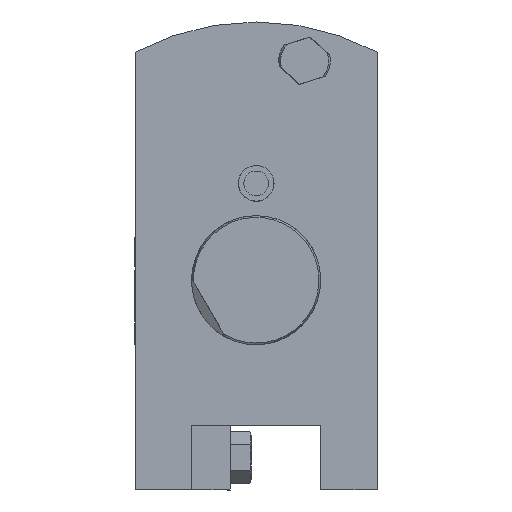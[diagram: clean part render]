
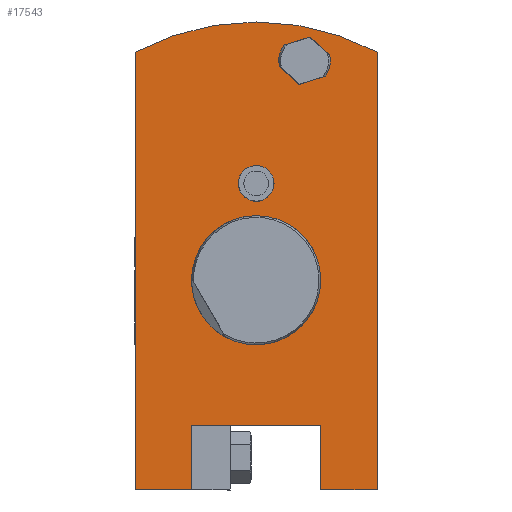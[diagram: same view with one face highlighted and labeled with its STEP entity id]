
A CAD part, left-side view. The second image highlights one B-rep face of the part: STEP entity #17543.
In plain terms, the highlighted planar face has unit normal (-1, 0, 0).
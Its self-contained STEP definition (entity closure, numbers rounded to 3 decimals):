
#7969=CIRCLE('',#16999,80.);
#7970=CIRCLE('',#17000,5.55);
#7971=CIRCLE('',#17001,20.);
#7972=CIRCLE('',#17002,8.);
#7973=CIRCLE('',#17003,8.);
#8178=ORIENTED_EDGE('',*,*,#10740,.F.);
#8179=ORIENTED_EDGE('',*,*,#10741,.F.);
#8180=ORIENTED_EDGE('',*,*,#10742,.F.);
#8181=ORIENTED_EDGE('',*,*,#10627,.F.);
#8182=ORIENTED_EDGE('',*,*,#10604,.F.);
#8183=ORIENTED_EDGE('',*,*,#10743,.F.);
#8184=ORIENTED_EDGE('',*,*,#10616,.F.);
#8185=ORIENTED_EDGE('',*,*,#10744,.F.);
#8186=ORIENTED_EDGE('',*,*,#10745,.F.);
#8187=ORIENTED_EDGE('',*,*,#10746,.T.);
#8188=ORIENTED_EDGE('',*,*,#10747,.F.);
#8189=ORIENTED_EDGE('',*,*,#10748,.F.);
#8190=ORIENTED_EDGE('',*,*,#10749,.F.);
#8191=ORIENTED_EDGE('',*,*,#10750,.F.);
#8192=ORIENTED_EDGE('',*,*,#10751,.F.);
#8193=ORIENTED_EDGE('',*,*,#10752,.F.);
#9382=VECTOR('',#11970,1.);
#9392=VECTOR('',#11988,1.);
#9401=VECTOR('',#12007,1.);
#9477=VECTOR('',#12085,1.);
#9478=VECTOR('',#12086,1.);
#9479=VECTOR('',#12089,1.);
#9480=VECTOR('',#12090,1.);
#9481=VECTOR('',#12095,1.);
#9482=VECTOR('',#12096,1.);
#9483=VECTOR('',#12099,1.);
#9484=VECTOR('',#12100,1.);
#9763=LINE('',#13061,#9382);
#9773=LINE('',#13085,#9392);
#9782=LINE('',#13106,#9401);
#9858=LINE('',#13561,#9477);
#9859=LINE('',#13563,#9478);
#9860=LINE('',#13565,#9479);
#9861=LINE('',#13566,#9480);
#9862=LINE('',#13573,#9481);
#9863=LINE('',#13575,#9482);
#9864=LINE('',#13579,#9483);
#9865=LINE('',#13581,#9484);
#10143=VERTEX_POINT('',#13058);
#10144=VERTEX_POINT('',#13060);
#10153=VERTEX_POINT('',#13082);
#10154=VERTEX_POINT('',#13084);
#10161=VERTEX_POINT('',#13105);
#10273=VERTEX_POINT('',#13559);
#10274=VERTEX_POINT('',#13560);
#10275=VERTEX_POINT('',#13562);
#10276=VERTEX_POINT('',#13567);
#10277=VERTEX_POINT('',#13569);
#10278=VERTEX_POINT('',#13571);
#10279=VERTEX_POINT('',#13572);
#10280=VERTEX_POINT('',#13574);
#10281=VERTEX_POINT('',#13576);
#10282=VERTEX_POINT('',#13578);
#10283=VERTEX_POINT('',#13580);
#10604=EDGE_CURVE('',#10143,#10144,#9763,.T.);
#10616=EDGE_CURVE('',#10153,#10154,#9773,.T.);
#10627=EDGE_CURVE('',#10144,#10161,#9782,.T.);
#10740=EDGE_CURVE('',#10273,#10274,#9858,.T.);
#10741=EDGE_CURVE('',#10275,#10273,#9859,.T.);
#10742=EDGE_CURVE('',#10161,#10275,#7969,.T.);
#10743=EDGE_CURVE('',#10154,#10143,#9860,.T.);
#10744=EDGE_CURVE('',#10274,#10153,#9861,.T.);
#10745=EDGE_CURVE('',#10276,#10276,#7970,.T.);
#10746=EDGE_CURVE('',#10277,#10277,#7971,.T.);
#10747=EDGE_CURVE('',#10278,#10279,#9862,.T.);
#10748=EDGE_CURVE('',#10280,#10278,#9863,.T.);
#10749=EDGE_CURVE('',#10281,#10280,#7972,.T.);
#10750=EDGE_CURVE('',#10282,#10281,#9864,.T.);
#10751=EDGE_CURVE('',#10283,#10282,#9865,.T.);
#10752=EDGE_CURVE('',#10279,#10283,#7973,.T.);
#11299=EDGE_LOOP('',(#8178,#8179,#8180,#8181,#8182,#8183,#8184,#8185));
#11300=EDGE_LOOP('',(#8186));
#11301=EDGE_LOOP('',(#8187));
#11302=EDGE_LOOP('',(#8188,#8189,#8190,#8191,#8192,#8193));
#11641=FACE_BOUND('',#11299,.T.);
#11642=FACE_BOUND('',#11300,.T.);
#11643=FACE_BOUND('',#11301,.T.);
#11644=FACE_BOUND('',#11302,.T.);
#11970=DIRECTION('',(0.,17.5,0.));
#11988=DIRECTION('',(0.,40.,0.));
#12007=DIRECTION('',(0.,0.,135.666));
#12083=DIRECTION('',(-1.,0.,0.));
#12084=DIRECTION('',(0.,1.,0.));
#12085=DIRECTION('',(0.,17.5,0.));
#12086=DIRECTION('',(0.,0.,-135.666));
#12087=DIRECTION('',(1.,0.,0.));
#12088=DIRECTION('',(0.,-7.59,79.639));
#12089=DIRECTION('',(0.,0.,-20.));
#12090=DIRECTION('',(0.,0.,20.));
#12091=DIRECTION('',(-1.,0.,0.));
#12092=DIRECTION('',(0.,0.,-5.55));
#12093=DIRECTION('',(1.,0.,0.));
#12094=DIRECTION('',(0.,-20.,0.));
#12095=DIRECTION('',(0.,8.027,-2.531));
#12096=DIRECTION('',(0.,6.205,5.686));
#12097=DIRECTION('',(-1.,0.,0.));
#12098=DIRECTION('',(0.,-6.402,-4.797));
#12099=DIRECTION('',(0.,-8.027,2.531));
#12100=DIRECTION('',(0.,-6.205,-5.686));
#12101=DIRECTION('',(-1.,0.,0.));
#12102=DIRECTION('',(0.,6.402,4.797));
#13058=CARTESIAN_POINT('',(0.,20.,-65.));
#13060=CARTESIAN_POINT('',(0.,37.5,-65.));
#13061=CARTESIAN_POINT('',(0.,20.,-65.));
#13082=CARTESIAN_POINT('',(0.,-20.,-45.));
#13084=CARTESIAN_POINT('',(0.,20.,-45.));
#13085=CARTESIAN_POINT('',(0.,-20.,-45.));
#13105=CARTESIAN_POINT('',(0.,37.5,70.666));
#13106=CARTESIAN_POINT('',(0.,37.5,-65.));
#13558=CARTESIAN_POINT('',(0.,0.,45.));
#13559=CARTESIAN_POINT('',(0.,-37.5,-65.));
#13560=CARTESIAN_POINT('',(0.,-20.,-65.));
#13561=CARTESIAN_POINT('',(0.,-37.5,-65.));
#13562=CARTESIAN_POINT('',(0.,-37.5,70.666));
#13563=CARTESIAN_POINT('',(0.,-37.5,70.666));
#13564=CARTESIAN_POINT('',(0.,0.,
0.));
#13565=CARTESIAN_POINT('',(0.,20.,-45.));
#13566=CARTESIAN_POINT('',(0.,-20.,-65.));
#13567=CARTESIAN_POINT('',(0.,0.,24.45));
#13568=CARTESIAN_POINT('',(0.,0.,30.));
#13569=CARTESIAN_POINT('',(0.,0.,20.));
#13570=CARTESIAN_POINT('',(0.,0.,0.));
#13571=CARTESIAN_POINT('',(0.,-16.624,75.328));
#13572=CARTESIAN_POINT('',(0.,-8.598,72.797));
#13573=CARTESIAN_POINT('',(0.,-16.624,75.328));
#13574=CARTESIAN_POINT('',(0.,-22.83,69.642));
#13575=CARTESIAN_POINT('',(0.,-22.83,69.642));
#13576=CARTESIAN_POINT('',(0.,-21.402,63.203));
#13577=CARTESIAN_POINT('',(0.,-15.,68.));
#13578=CARTESIAN_POINT('',(0.,-13.376,60.672));
#13579=CARTESIAN_POINT('',(0.,-13.376,60.672));
#13580=CARTESIAN_POINT('',(0.,-7.17,66.358));
#13581=CARTESIAN_POINT('',(0.,-7.17,66.358));
#13582=CARTESIAN_POINT('',(0.,-15.,68.));
#16998=AXIS2_PLACEMENT_3D('',#13558,#12083,#12084);
#16999=AXIS2_PLACEMENT_3D('',#13564,#12087,#12088);
#17000=AXIS2_PLACEMENT_3D('',#13568,#12091,#12092);
#17001=AXIS2_PLACEMENT_3D('',#13570,#12093,#12094);
#17002=AXIS2_PLACEMENT_3D('',#13577,#12097,#12098);
#17003=AXIS2_PLACEMENT_3D('',#13582,#12101,#12102);
#17346=PLANE('',#16998);
#17543=ADVANCED_FACE('',(#11641,#11642,#11643,#11644),#17346,.T.);
